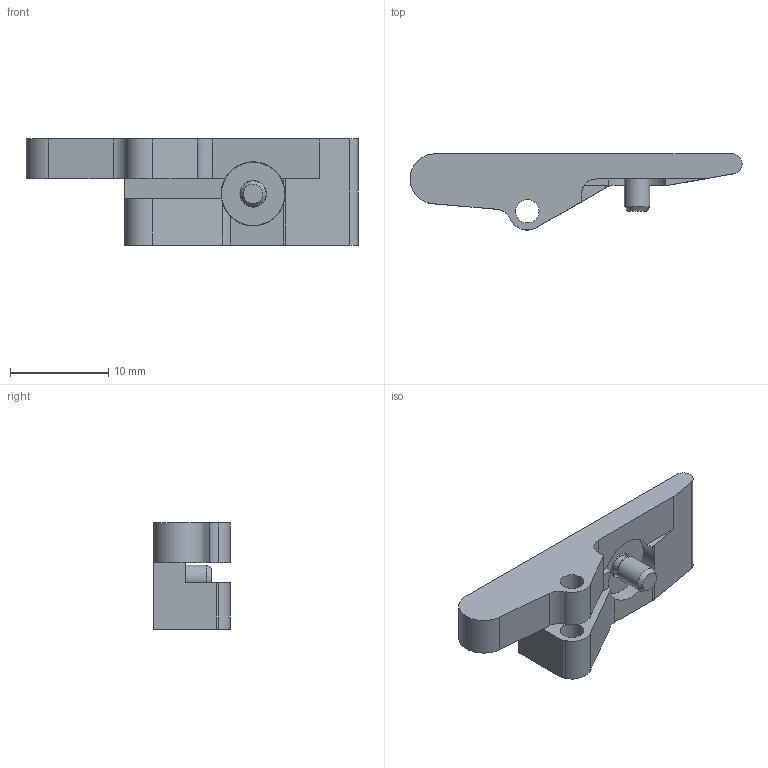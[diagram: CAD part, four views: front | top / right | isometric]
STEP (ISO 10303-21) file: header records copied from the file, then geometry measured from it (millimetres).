
FILE_DESCRIPTION (( 'STEP AP214' ), '1' );
FILE_NAME ('82793-L-F-133 (702SK-1).STEP', '2020-01-22T15:48:30', ( '' ), ( '' ), 'SwSTEP 2.0', 'SolidWorks 2016', '' );
FILE_SCHEMA (( 'AUTOMOTIVE_DESIGN' ));
Length unit declared in the file: inch
Products named in the file (1): 82793-L-F-133 (702SK-1)
Bounding box: 33.78 x 7.75 x 10.79 mm (x, y, z)
Volume: 1104.4 mm3; surface area: 1273.6 mm2
Topology: 3 solids, 3 shells, 55 faces, 138 edges, 91 vertices
Faces by surface type: plane 25, cylinder 21, cone 6, torus 3
Full cylindrical faces by diameter (mm): 1.905 x1, 2.381 x2, 2.603 x1, 2.692 x1, 3.962 x1, 4.572 x1, 5.944 x1, 6.452 x1, 6.528 x1, 7.137 x1
Entity records: 1602 total; most frequent: CARTESIAN_POINT 300, DIRECTION 267, ORIENTED_EDGE 222, EDGE_CURVE 111, AXIS2_PLACEMENT_3D 107, EDGE_LOOP 83, VERTEX_POINT 82, FACE_OUTER_BOUND 69
